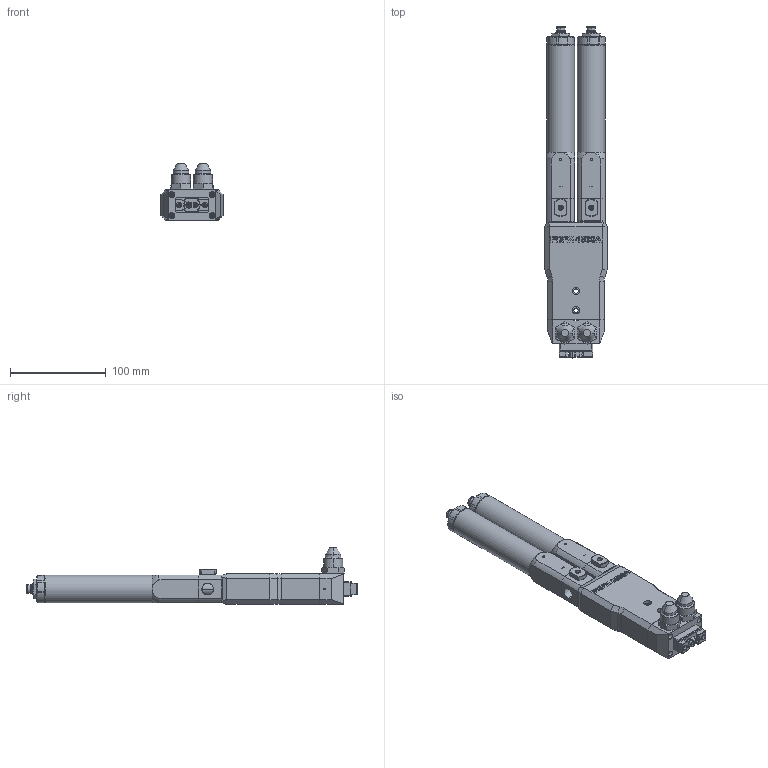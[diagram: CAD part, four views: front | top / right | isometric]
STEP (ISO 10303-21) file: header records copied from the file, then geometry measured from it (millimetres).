
FILE_DESCRIPTION (( 'STEP AP214' ), '1' );
FILE_NAME ('PDP-1500-500BB.STEP', '2024-10-11T12:29:30', ( '' ), ( '' ), 'SwSTEP 2.0', 'SolidWorks 2024', '' );
FILE_SCHEMA (( 'AUTOMOTIVE_DESIGN' ));
Length unit declared in the file: millimetre
Products named in the file (1): PDP-1500-500BB
Bounding box: 65 x 347 x 59.3 mm (x, y, z)
Volume: 522483.1 mm3; surface area: 123495.2 mm2
Topology: 13 solids, 13 shells, 1662 faces, 4228 edges, 2693 vertices
Faces by surface type: plane 821, cylinder 487, cone 306, bspline 28, torus 12, sphere 8
Full cylindrical faces by diameter (mm): 29 x2
Entity records: 75703 total; most frequent: CARTESIAN_POINT 36117, ORIENTED_EDGE 8386, DIRECTION 7930, EDGE_CURVE 4193, AXIS2_PLACEMENT_3D 2807, VERTEX_POINT 2692, LINE 2316, VECTOR 2316
